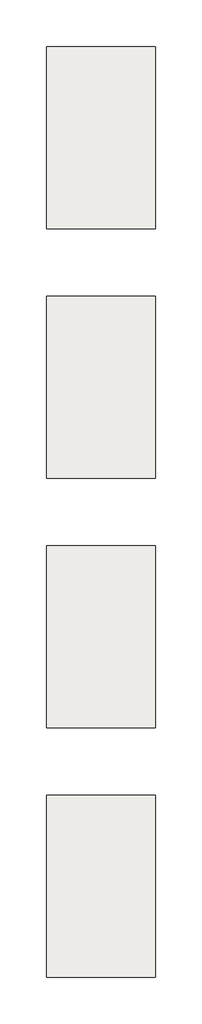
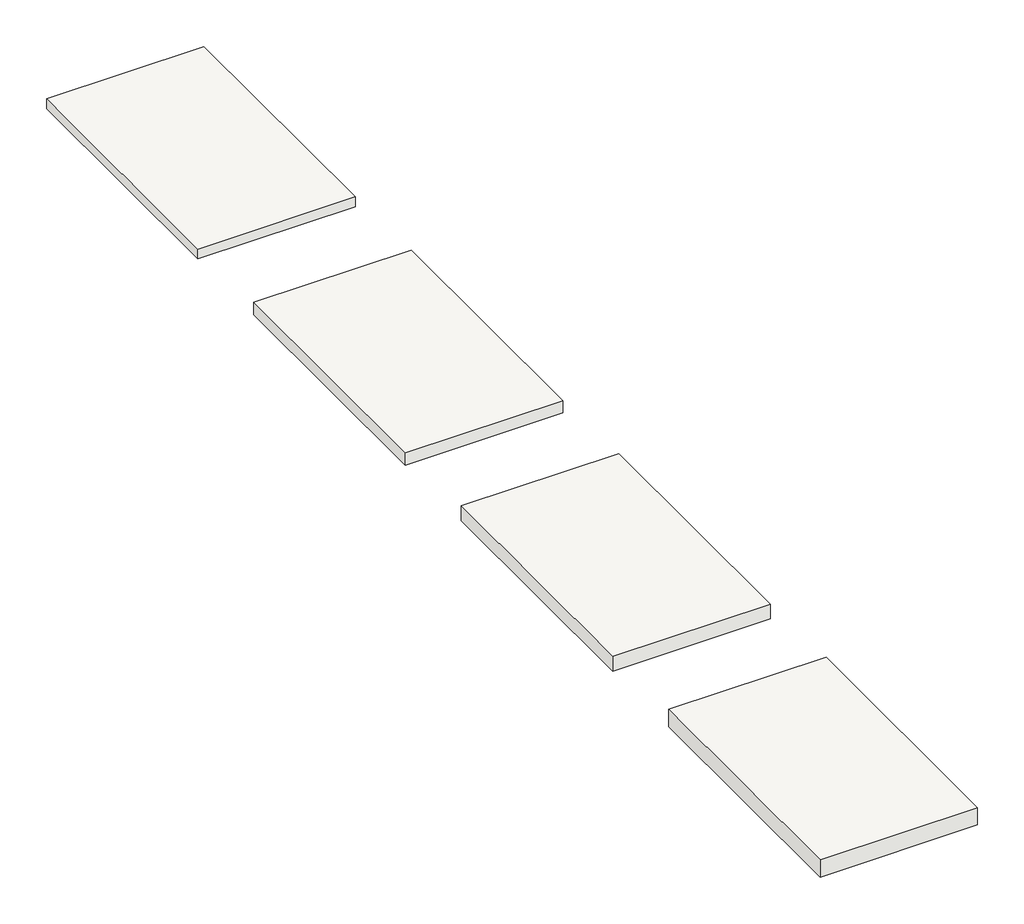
# One storey: 4 roofs.
"""IFC4 building model written with IfcOpenShell, lengths in millimetres."""

from ifc_helpers import new_model, si_unit, origin, origin_with_axes, place, context, project, spatial, polyline, outline, extrude, element, save

model = new_model("IFC4")

# Units and contexts
model_context = context("Model", 3, world=origin())
ifc_project = project(units=[si_unit("LENGTHUNIT", "METRE", prefix="MILLI")], contexts=[model_context])

# Site, building, storey
site = spatial("IfcSite", under=ifc_project)
building = spatial("IfcBuilding", under=site)
storey = spatial("IfcBuildingStorey", under=building, Name="Референтни ниво", Elevation=0.0)

# Roofs
placement = place(None, origin())
element("IfcRoof", 1, ObjectType="Knauf Insulation - SmartRoof Thermal 2 - 80 mm - 80 x 2000 x 1200 mm", at=placement, inside=storey, context=model_context, shape_type="SweptSolid", body=[
    extrude(outline(polyline([(-229800.0, 183272.205474), (-228600.0, 183272.205474), (-228600.0, 181272.205474), (-229800.0, 181272.205474), (-229800.0, 183272.205474)])), origin_with_axes(), (0.0, 0.0, 1.0), 80.0),
])
element("IfcRoof", 2, ObjectType="Knauf Insulation - SmartRoof Thermal 2 - 100 mm - 100 x 2000 x 1200 mm", at=placement, inside=storey, context=model_context, shape_type="SweptSolid", body=[
    extrude(outline(polyline([(-229800.0, 180532.205474), (-228600.0, 180532.205474), (-228600.0, 178532.205474), (-229800.0, 178532.205474), (-229800.0, 180532.205474)])), origin_with_axes(), (0.0, 0.0, 1.0), 100.0),
])
element("IfcRoof", 3, ObjectType="Knauf Insulation - SmartRoof Thermal 2 - 120 mm - 120 x 2000 x 1200 mm", at=placement, inside=storey, context=model_context, shape_type="SweptSolid", body=[
    extrude(outline(polyline([(-229800.0, 177792.205474), (-228600.0, 177792.205474), (-228600.0, 175792.205474), (-229800.0, 175792.205474), (-229800.0, 177792.205474)])), origin_with_axes(), (0.0, 0.0, 1.0), 120.0),
])
element("IfcRoof", 4, ObjectType="Knauf Insulation - SmartRoof Thermal 2 - 140 mm - 140 x 2000 x 1200 mm", at=placement, inside=storey, context=model_context, shape_type="SweptSolid", body=[
    extrude(outline(polyline([(-229800.0, 175052.205474), (-228600.0, 175052.205474), (-228600.0, 173052.205474), (-229800.0, 173052.205474), (-229800.0, 175052.205474)])), origin_with_axes(), (0.0, 0.0, 1.0), 140.0),
])

save(model, "model.ifc")
